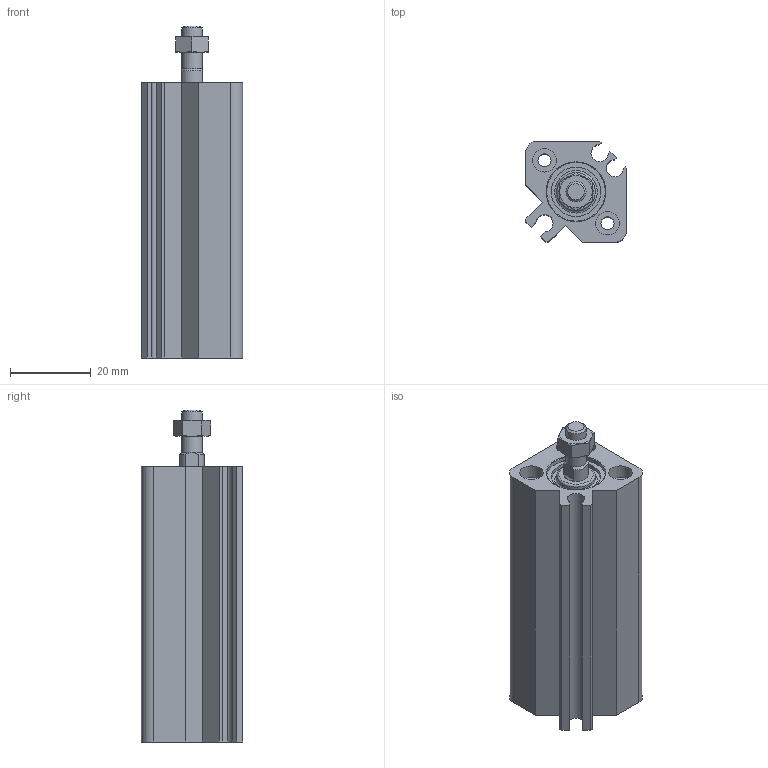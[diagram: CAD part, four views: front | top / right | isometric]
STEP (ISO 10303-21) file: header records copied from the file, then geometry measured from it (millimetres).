
FILE_DESCRIPTION( ( 'STEP AP214' ), '1' );
FILE_NAME( 'C:/Users/emc02044/Desktop/SQN SQN big size/SQN12X40-S-M.stp', '2026-07-28T12:22:22', ( 'License CC BY-ND 4.0' ), ( 'CADENAS' ), ' ', 'PARTsolutions', ' ' );
FILE_SCHEMA( ( 'AUTOMOTIVE_DESIGN { 1 0 10303 214 1 1 1 1 }' ) );
Length unit declared in the file: millimetre
Products named in the file (3): SQN12X40-S-M; _SQ12X40-S(0) ()_body; _SQ12X40-S-M(rod-0)
Assembly tree (2 placements, depth 2):
  SQN12X40-S-M
    _SQ12X40-S(0) ()_body
    _SQ12X40-S-M(rod-0)
Bounding box: 25 x 25 x 82 mm (x, y, z)
Volume: 29410.3 mm3; surface area: 15695.2 mm2
Topology: 2 solids, 2 shells, 101 faces, 216 edges, 137 vertices
Faces by surface type: plane 53, cylinder 26, cone 20, torus 2
Full cylindrical faces by diameter (mm): 3.242 x4, 3.4 x2, 4.134 x2, 5 x2, 5.8 x4, 6 x2, 9.5 x1, 12 x2, 12.19 x1, 14.5 x1
Entity records: 3472 total; most frequent: CARTESIAN_POINT 534, DIRECTION 440, ORIENTED_EDGE 368, EDGE_CURVE 184, AXIS2_PLACEMENT_3D 180, EDGE_LOOP 152, VERTEX_POINT 134, FACE_OUTER_BOUND 124
